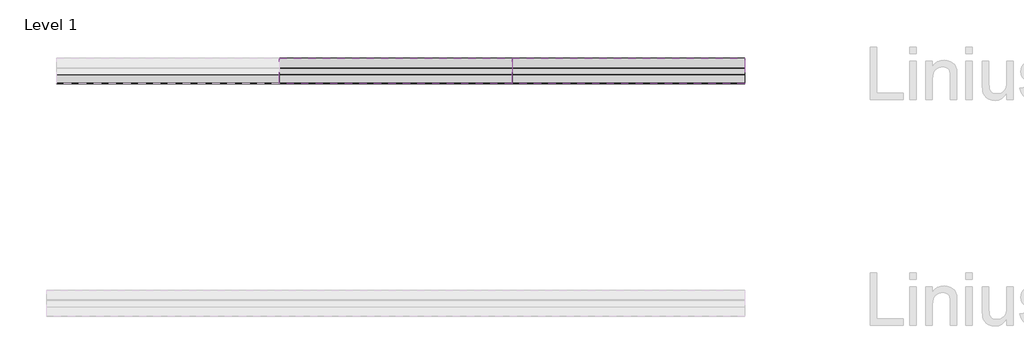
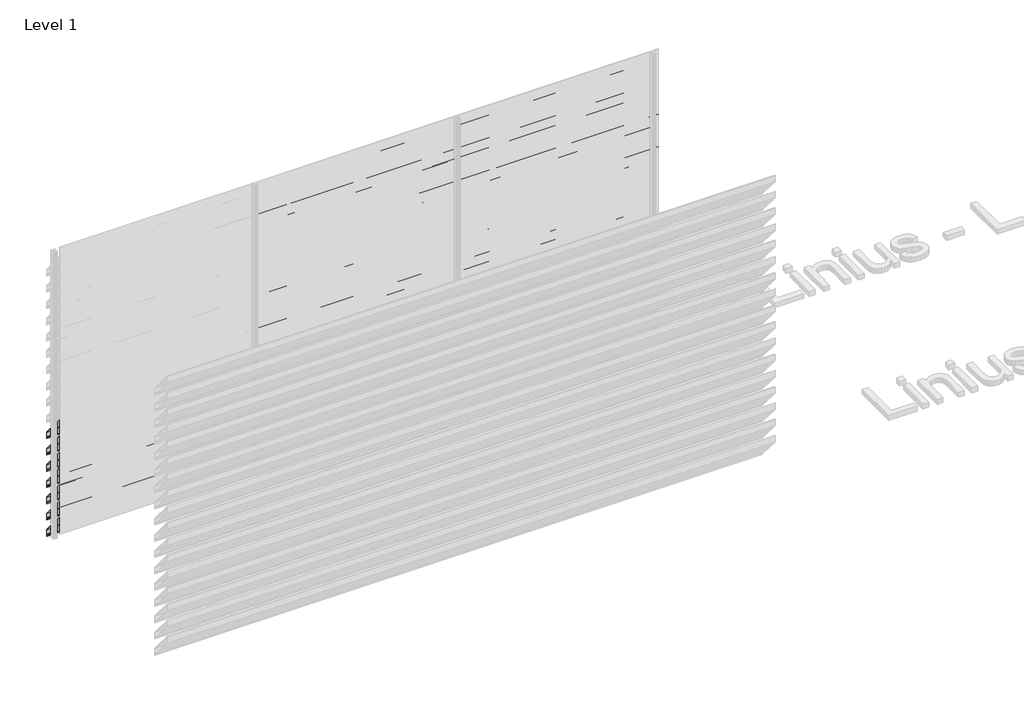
# One storey, part 47 of 121: 41 proxies.
"""IFC4 building model written with IfcOpenShell, lengths in millimetres."""

from ifc_helpers import new_model, si_unit, frame, origin, place, context, project, spatial, polyline, outline, extrude, element, save

model = new_model("IFC4")

# Units and contexts
model_context = context("Model", 3, world=origin())
ifc_project = project(units=[si_unit("LENGTHUNIT", "METRE", prefix="MILLI")], contexts=[model_context])

# Site, building, storey
site = spatial("IfcSite", under=ifc_project)
building = spatial("IfcBuilding", under=site)
storey = spatial("IfcBuildingStorey", under=building, Name="Level 1", Elevation=0.0)

# Proxies
placement = place(None, origin())
element("IfcBuildingElementProxy", 1, Name="Wall Sweeps", at=placement, inside=storey, context=model_context, shape_type="SweptSolid", body=[
    extrude(outline(polyline([(59205.0540136, 931.0), (59205.0540136, 862.0), (59202.5540136, 863.1657691), (59202.5540136, 876.7059843), (59185.8041465, 896.6676986), (59175.1189071, 896.6676986), (58983.0540136, 1125.5617253), (58983.0540136, 1190.0), (58987.7272091, 1190.0), (59205.0540136, 931.0)]), holes=[polyline([(58986.8412246, 1188.1), (58984.9540136, 1188.1), (58984.9540136, 1126.2532688), (59176.0048916, 898.5676986), (59186.6901311, 898.5676986), (59203.1540136, 878.9468074), (59203.1540136, 930.3084566), (58986.8412246, 1188.1)])]), frame((552.6208097, 0.0, 0.0), z_axis=(1.0, 0.0, 0.0), x_axis=(0.0, 1.0, 0.0)), (0.0, 0.0, 1.0), 1914.0),
])
element("IfcBuildingElementProxy", 2, Name="Wall Sweeps", at=placement, inside=storey, context=model_context, shape_type="SweptSolid", body=[
    extrude(outline(polyline([(59205.0540136, 761.0), (59205.0540136, 692.0), (59202.5540136, 693.1657691), (59202.5540136, 706.7059843), (59185.8041465, 726.6676986), (59175.1189071, 726.6676986), (58983.0540136, 955.5617253), (58983.0540136, 1020.0), (58987.7272091, 1020.0), (59205.0540136, 761.0)]), holes=[polyline([(58986.8412246, 1018.1), (58984.9540136, 1018.1), (58984.9540136, 956.2532688), (59176.0048916, 728.5676986), (59186.6901311, 728.5676986), (59203.1540136, 708.9468074), (59203.1540136, 760.3084566), (58986.8412246, 1018.1)])]), frame((552.6208097, 0.0, 0.0), z_axis=(1.0, 0.0, 0.0), x_axis=(0.0, 1.0, 0.0)), (0.0, 0.0, 1.0), 1914.0),
])
element("IfcBuildingElementProxy", 3, Name="Wall Sweeps", at=placement, inside=storey, context=model_context, shape_type="SweptSolid", body=[
    extrude(outline(polyline([(59205.0540136, 591.0), (59205.0540136, 522.0), (59202.5540136, 523.1657691), (59202.5540136, 536.7059843), (59185.8041465, 556.6676986), (59175.1189071, 556.6676986), (58983.0540136, 785.5617253), (58983.0540136, 850.0), (58987.7272091, 850.0), (59205.0540136, 591.0)]), holes=[polyline([(58986.8412246, 848.1), (58984.9540136, 848.1), (58984.9540136, 786.2532688), (59176.0048916, 558.5676986), (59186.6901311, 558.5676986), (59203.1540136, 538.9468074), (59203.1540136, 590.3084566), (58986.8412246, 848.1)])]), frame((552.6208097, 0.0, 0.0), z_axis=(1.0, 0.0, 0.0), x_axis=(0.0, 1.0, 0.0)), (0.0, 0.0, 1.0), 1914.0),
])
element("IfcBuildingElementProxy", 4, Name="Wall Sweeps", at=placement, inside=storey, context=model_context, shape_type="SweptSolid", body=[
    extrude(outline(polyline([(59205.0540136, 421.0), (59205.0540136, 352.0), (59202.5540136, 353.1657691), (59202.5540136, 366.7059843), (59185.8041465, 386.6676986), (59175.1189071, 386.6676986), (58983.0540136, 615.5617253), (58983.0540136, 680.0), (58987.7272091, 680.0), (59205.0540136, 421.0)]), holes=[polyline([(58986.8412246, 678.1), (58984.9540136, 678.1), (58984.9540136, 616.2532688), (59176.0048916, 388.5676986), (59186.6901311, 388.5676986), (59203.1540136, 368.9468074), (59203.1540136, 420.3084566), (58986.8412246, 678.1)])]), frame((552.6208097, 0.0, 0.0), z_axis=(1.0, 0.0, 0.0), x_axis=(0.0, 1.0, 0.0)), (0.0, 0.0, 1.0), 1914.0),
])
element("IfcBuildingElementProxy", 5, Name="Wall Sweeps", at=placement, inside=storey, context=model_context, shape_type="SweptSolid", body=[
    extrude(outline(polyline([(59205.0540136, 251.0), (59205.0540136, 182.0), (59202.5540136, 183.1657691), (59202.5540136, 196.7059843), (59185.8041465, 216.6676986), (59175.1189071, 216.6676986), (58983.0540136, 445.5617253), (58983.0540136, 510.0), (58987.7272091, 510.0), (59205.0540136, 251.0)]), holes=[polyline([(58986.8412246, 508.1), (58984.9540136, 508.1), (58984.9540136, 446.2532688), (59176.0048916, 218.5676986), (59186.6901311, 218.5676986), (59203.1540136, 198.9468074), (59203.1540136, 250.3084566), (58986.8412246, 508.1)])]), frame((552.6208097, 0.0, 0.0), z_axis=(1.0, 0.0, 0.0), x_axis=(0.0, 1.0, 0.0)), (0.0, 0.0, 1.0), 1914.0),
])
element("IfcBuildingElementProxy", 6, Name="Wall Sweeps", at=placement, inside=storey, context=model_context, shape_type="SweptSolid", body=[
    extrude(outline(polyline([(59205.0540136, 81.0), (59205.0540136, 12.0), (59202.5540136, 13.1657691), (59202.5540136, 26.7059843), (59185.8041465, 46.6676986), (59175.1189071, 46.6676986), (58983.0540136, 275.5617253), (58983.0540136, 340.0), (58987.7272091, 340.0), (59205.0540136, 81.0)]), holes=[polyline([(58986.8412246, 338.1), (58984.9540136, 338.1), (58984.9540136, 276.2532688), (59176.0048916, 48.5676986), (59186.6901311, 48.5676986), (59203.1540136, 28.9468074), (59203.1540136, 80.3084566), (58986.8412246, 338.1)])]), frame((552.6208097, 0.0, 0.0), z_axis=(1.0, 0.0, 0.0), x_axis=(0.0, 1.0, 0.0)), (0.0, 0.0, 1.0), 1914.0),
])
element("IfcBuildingElementProxy", 7, Name="Wall Sweeps", at=placement, inside=storey, context=model_context, shape_type="SweptSolid", body=[
    extrude(outline(polyline([(59205.0540136, -89.0), (59205.0540136, -158.0), (59202.5540136, -156.8342309), (59202.5540136, -143.2940157), (59185.8041465, -123.3323014), (59175.1189071, -123.3323014), (58983.0540136, 105.5617253), (58983.0540136, 170.0), (58987.7272091, 170.0), (59205.0540136, -89.0)]), holes=[polyline([(58986.8412246, 168.1), (58984.9540136, 168.1), (58984.9540136, 106.2532688), (59176.0048916, -121.4323014), (59186.6901311, -121.4323014), (59203.1540136, -141.0531926), (59203.1540136, -89.6915434), (58986.8412246, 168.1)])]), frame((552.6208097, 0.0, 0.0), z_axis=(1.0, 0.0, 0.0), x_axis=(0.0, 1.0, 0.0)), (0.0, 0.0, 1.0), 1914.0),
])
element("IfcBuildingElementProxy", 8, Name="Wall Sweeps", at=placement, inside=storey, context=model_context, shape_type="SweptSolid", body=[
    extrude(outline(polyline([(59205.0540136, 2631.0), (59205.0540136, 2562.0), (59202.5540136, 2563.1657691), (59202.5540136, 2576.7059843), (59185.8041465, 2596.6676986), (59175.1189071, 2596.6676986), (58983.0540136, 2825.5617253), (58983.0540136, 2890.0), (58987.7272091, 2890.0), (59205.0540136, 2631.0)]), holes=[polyline([(58986.8412246, 2888.1), (58984.9540136, 2888.1), (58984.9540136, 2826.2532688), (59176.0048916, 2598.5676986), (59186.6901311, 2598.5676986), (59203.1540136, 2578.9468074), (59203.1540136, 2630.3084566), (58986.8412246, 2888.1)])]), frame((2466.6208097, 0.0, 0.0), z_axis=(1.0, 0.0, 0.0), x_axis=(0.0, 1.0, 0.0)), (0.0, 0.0, 1.0), 2000.0),
])
element("IfcBuildingElementProxy", 9, Name="Wall Sweeps", at=placement, inside=storey, context=model_context, shape_type="SweptSolid", body=[
    extrude(outline(polyline([(59205.0540136, 2461.0), (59205.0540136, 2392.0), (59202.5540136, 2393.1657691), (59202.5540136, 2406.7059843), (59185.8041465, 2426.6676986), (59175.1189071, 2426.6676986), (58983.0540136, 2655.5617253), (58983.0540136, 2720.0), (58987.7272091, 2720.0), (59205.0540136, 2461.0)]), holes=[polyline([(58986.8412246, 2718.1), (58984.9540136, 2718.1), (58984.9540136, 2656.2532688), (59176.0048916, 2428.5676986), (59186.6901311, 2428.5676986), (59203.1540136, 2408.9468074), (59203.1540136, 2460.3084566), (58986.8412246, 2718.1)])]), frame((2466.6208097, 0.0, 0.0), z_axis=(1.0, 0.0, 0.0), x_axis=(0.0, 1.0, 0.0)), (0.0, 0.0, 1.0), 2000.0),
])
element("IfcBuildingElementProxy", 10, Name="Wall Sweeps", at=placement, inside=storey, context=model_context, shape_type="SweptSolid", body=[
    extrude(outline(polyline([(59205.0540136, 2291.0), (59205.0540136, 2222.0), (59202.5540136, 2223.1657691), (59202.5540136, 2236.7059843), (59185.8041465, 2256.6676986), (59175.1189071, 2256.6676986), (58983.0540136, 2485.5617253), (58983.0540136, 2550.0), (58987.7272091, 2550.0), (59205.0540136, 2291.0)]), holes=[polyline([(58986.8412246, 2548.1), (58984.9540136, 2548.1), (58984.9540136, 2486.2532688), (59176.0048916, 2258.5676986), (59186.6901311, 2258.5676986), (59203.1540136, 2238.9468074), (59203.1540136, 2290.3084566), (58986.8412246, 2548.1)])]), frame((2466.6208097, 0.0, 0.0), z_axis=(1.0, 0.0, 0.0), x_axis=(0.0, 1.0, 0.0)), (0.0, 0.0, 1.0), 2000.0),
])
element("IfcBuildingElementProxy", 11, Name="Wall Sweeps", at=placement, inside=storey, context=model_context, shape_type="SweptSolid", body=[
    extrude(outline(polyline([(59205.0540136, 2121.0), (59205.0540136, 2052.0), (59202.5540136, 2053.1657691), (59202.5540136, 2066.7059843), (59185.8041465, 2086.6676986), (59175.1189071, 2086.6676986), (58983.0540136, 2315.5617253), (58983.0540136, 2380.0), (58987.7272091, 2380.0), (59205.0540136, 2121.0)]), holes=[polyline([(58986.8412246, 2378.1), (58984.9540136, 2378.1), (58984.9540136, 2316.2532688), (59176.0048916, 2088.5676986), (59186.6901311, 2088.5676986), (59203.1540136, 2068.9468074), (59203.1540136, 2120.3084566), (58986.8412246, 2378.1)])]), frame((2466.6208097, 0.0, 0.0), z_axis=(1.0, 0.0, 0.0), x_axis=(0.0, 1.0, 0.0)), (0.0, 0.0, 1.0), 2000.0),
])
element("IfcBuildingElementProxy", 12, Name="Wall Sweeps", at=placement, inside=storey, context=model_context, shape_type="SweptSolid", body=[
    extrude(outline(polyline([(59205.0540136, 1951.0), (59205.0540136, 1882.0), (59202.5540136, 1883.1657691), (59202.5540136, 1896.7059843), (59185.8041465, 1916.6676986), (59175.1189071, 1916.6676986), (58983.0540136, 2145.5617253), (58983.0540136, 2210.0), (58987.7272091, 2210.0), (59205.0540136, 1951.0)]), holes=[polyline([(58986.8412246, 2208.1), (58984.9540136, 2208.1), (58984.9540136, 2146.2532688), (59176.0048916, 1918.5676986), (59186.6901311, 1918.5676986), (59203.1540136, 1898.9468074), (59203.1540136, 1950.3084566), (58986.8412246, 2208.1)])]), frame((2466.6208097, 0.0, 0.0), z_axis=(1.0, 0.0, 0.0), x_axis=(0.0, 1.0, 0.0)), (0.0, 0.0, 1.0), 2000.0),
])
element("IfcBuildingElementProxy", 13, Name="Wall Sweeps", at=placement, inside=storey, context=model_context, shape_type="SweptSolid", body=[
    extrude(outline(polyline([(59205.0540136, 1781.0), (59205.0540136, 1712.0), (59202.5540136, 1713.1657691), (59202.5540136, 1726.7059843), (59185.8041465, 1746.6676986), (59175.1189071, 1746.6676986), (58983.0540136, 1975.5617253), (58983.0540136, 2040.0), (58987.7272091, 2040.0), (59205.0540136, 1781.0)]), holes=[polyline([(58986.8412246, 2038.1), (58984.9540136, 2038.1), (58984.9540136, 1976.2532688), (59176.0048916, 1748.5676986), (59186.6901311, 1748.5676986), (59203.1540136, 1728.9468074), (59203.1540136, 1780.3084566), (58986.8412246, 2038.1)])]), frame((2466.6208097, 0.0, 0.0), z_axis=(1.0, 0.0, 0.0), x_axis=(0.0, 1.0, 0.0)), (0.0, 0.0, 1.0), 2000.0),
])
element("IfcBuildingElementProxy", 14, Name="Wall Sweeps", at=placement, inside=storey, context=model_context, shape_type="SweptSolid", body=[
    extrude(outline(polyline([(59205.0540136, 1611.0), (59205.0540136, 1542.0), (59202.5540136, 1543.1657691), (59202.5540136, 1556.7059843), (59185.8041465, 1576.6676986), (59175.1189071, 1576.6676986), (58983.0540136, 1805.5617253), (58983.0540136, 1870.0), (58987.7272091, 1870.0), (59205.0540136, 1611.0)]), holes=[polyline([(58986.8412246, 1868.1), (58984.9540136, 1868.1), (58984.9540136, 1806.2532688), (59176.0048916, 1578.5676986), (59186.6901311, 1578.5676986), (59203.1540136, 1558.9468074), (59203.1540136, 1610.3084566), (58986.8412246, 1868.1)])]), frame((2466.6208097, 0.0, 0.0), z_axis=(1.0, 0.0, 0.0), x_axis=(0.0, 1.0, 0.0)), (0.0, 0.0, 1.0), 2000.0),
])
element("IfcBuildingElementProxy", 15, Name="Wall Sweeps", at=placement, inside=storey, context=model_context, shape_type="SweptSolid", body=[
    extrude(outline(polyline([(59205.0540136, 1441.0), (59205.0540136, 1372.0), (59202.5540136, 1373.1657691), (59202.5540136, 1386.7059843), (59185.8041465, 1406.6676986), (59175.1189071, 1406.6676986), (58983.0540136, 1635.5617253), (58983.0540136, 1700.0), (58987.7272091, 1700.0), (59205.0540136, 1441.0)]), holes=[polyline([(58986.8412246, 1698.1), (58984.9540136, 1698.1), (58984.9540136, 1636.2532688), (59176.0048916, 1408.5676986), (59186.6901311, 1408.5676986), (59203.1540136, 1388.9468074), (59203.1540136, 1440.3084566), (58986.8412246, 1698.1)])]), frame((2466.6208097, 0.0, 0.0), z_axis=(1.0, 0.0, 0.0), x_axis=(0.0, 1.0, 0.0)), (0.0, 0.0, 1.0), 2000.0),
])
element("IfcBuildingElementProxy", 16, Name="Wall Sweeps", at=placement, inside=storey, context=model_context, shape_type="SweptSolid", body=[
    extrude(outline(polyline([(59205.0540136, 1271.0), (59205.0540136, 1202.0), (59202.5540136, 1203.1657691), (59202.5540136, 1216.7059843), (59185.8041465, 1236.6676986), (59175.1189071, 1236.6676986), (58983.0540136, 1465.5617253), (58983.0540136, 1530.0), (58987.7272091, 1530.0), (59205.0540136, 1271.0)]), holes=[polyline([(58986.8412246, 1528.1), (58984.9540136, 1528.1), (58984.9540136, 1466.2532688), (59176.0048916, 1238.5676986), (59186.6901311, 1238.5676986), (59203.1540136, 1218.9468074), (59203.1540136, 1270.3084566), (58986.8412246, 1528.1)])]), frame((2466.6208097, 0.0, 0.0), z_axis=(1.0, 0.0, 0.0), x_axis=(0.0, 1.0, 0.0)), (0.0, 0.0, 1.0), 2000.0),
])
element("IfcBuildingElementProxy", 17, Name="Wall Sweeps", at=placement, inside=storey, context=model_context, shape_type="SweptSolid", body=[
    extrude(outline(polyline([(59205.0540136, 1101.0), (59205.0540136, 1032.0), (59202.5540136, 1033.1657691), (59202.5540136, 1046.7059843), (59185.8041465, 1066.6676986), (59175.1189071, 1066.6676986), (58983.0540136, 1295.5617253), (58983.0540136, 1360.0), (58987.7272091, 1360.0), (59205.0540136, 1101.0)]), holes=[polyline([(58986.8412246, 1358.1), (58984.9540136, 1358.1), (58984.9540136, 1296.2532688), (59176.0048916, 1068.5676986), (59186.6901311, 1068.5676986), (59203.1540136, 1048.9468074), (59203.1540136, 1100.3084566), (58986.8412246, 1358.1)])]), frame((2466.6208097, 0.0, 0.0), z_axis=(1.0, 0.0, 0.0), x_axis=(0.0, 1.0, 0.0)), (0.0, 0.0, 1.0), 2000.0),
])
element("IfcBuildingElementProxy", 18, Name="Wall Sweeps", at=placement, inside=storey, context=model_context, shape_type="SweptSolid", body=[
    extrude(outline(polyline([(59205.0540136, 931.0), (59205.0540136, 862.0), (59202.5540136, 863.1657691), (59202.5540136, 876.7059843), (59185.8041465, 896.6676986), (59175.1189071, 896.6676986), (58983.0540136, 1125.5617253), (58983.0540136, 1190.0), (58987.7272091, 1190.0), (59205.0540136, 931.0)]), holes=[polyline([(58986.8412246, 1188.1), (58984.9540136, 1188.1), (58984.9540136, 1126.2532688), (59176.0048916, 898.5676986), (59186.6901311, 898.5676986), (59203.1540136, 878.9468074), (59203.1540136, 930.3084566), (58986.8412246, 1188.1)])]), frame((2466.6208097, 0.0, 0.0), z_axis=(1.0, 0.0, 0.0), x_axis=(0.0, 1.0, 0.0)), (0.0, 0.0, 1.0), 2000.0),
])
element("IfcBuildingElementProxy", 19, Name="Wall Sweeps", at=placement, inside=storey, context=model_context, shape_type="SweptSolid", body=[
    extrude(outline(polyline([(59205.0540136, 761.0), (59205.0540136, 692.0), (59202.5540136, 693.1657691), (59202.5540136, 706.7059843), (59185.8041465, 726.6676986), (59175.1189071, 726.6676986), (58983.0540136, 955.5617253), (58983.0540136, 1020.0), (58987.7272091, 1020.0), (59205.0540136, 761.0)]), holes=[polyline([(58986.8412246, 1018.1), (58984.9540136, 1018.1), (58984.9540136, 956.2532688), (59176.0048916, 728.5676986), (59186.6901311, 728.5676986), (59203.1540136, 708.9468074), (59203.1540136, 760.3084566), (58986.8412246, 1018.1)])]), frame((2466.6208097, 0.0, 0.0), z_axis=(1.0, 0.0, 0.0), x_axis=(0.0, 1.0, 0.0)), (0.0, 0.0, 1.0), 2000.0),
])
element("IfcBuildingElementProxy", 20, Name="Wall Sweeps", at=placement, inside=storey, context=model_context, shape_type="SweptSolid", body=[
    extrude(outline(polyline([(59205.0540136, 591.0), (59205.0540136, 522.0), (59202.5540136, 523.1657691), (59202.5540136, 536.7059843), (59185.8041465, 556.6676986), (59175.1189071, 556.6676986), (58983.0540136, 785.5617253), (58983.0540136, 850.0), (58987.7272091, 850.0), (59205.0540136, 591.0)]), holes=[polyline([(58986.8412246, 848.1), (58984.9540136, 848.1), (58984.9540136, 786.2532688), (59176.0048916, 558.5676986), (59186.6901311, 558.5676986), (59203.1540136, 538.9468074), (59203.1540136, 590.3084566), (58986.8412246, 848.1)])]), frame((2466.6208097, 0.0, 0.0), z_axis=(1.0, 0.0, 0.0), x_axis=(0.0, 1.0, 0.0)), (0.0, 0.0, 1.0), 2000.0),
])
element("IfcBuildingElementProxy", 21, Name="Wall Sweeps", at=placement, inside=storey, context=model_context, shape_type="SweptSolid", body=[
    extrude(outline(polyline([(59205.0540136, 421.0), (59205.0540136, 352.0), (59202.5540136, 353.1657691), (59202.5540136, 366.7059843), (59185.8041465, 386.6676986), (59175.1189071, 386.6676986), (58983.0540136, 615.5617253), (58983.0540136, 680.0), (58987.7272091, 680.0), (59205.0540136, 421.0)]), holes=[polyline([(58986.8412246, 678.1), (58984.9540136, 678.1), (58984.9540136, 616.2532688), (59176.0048916, 388.5676986), (59186.6901311, 388.5676986), (59203.1540136, 368.9468074), (59203.1540136, 420.3084566), (58986.8412246, 678.1)])]), frame((2466.6208097, 0.0, 0.0), z_axis=(1.0, 0.0, 0.0), x_axis=(0.0, 1.0, 0.0)), (0.0, 0.0, 1.0), 2000.0),
])
element("IfcBuildingElementProxy", 22, Name="Wall Sweeps", at=placement, inside=storey, context=model_context, shape_type="SweptSolid", body=[
    extrude(outline(polyline([(59205.0540136, 251.0), (59205.0540136, 182.0), (59202.5540136, 183.1657691), (59202.5540136, 196.7059843), (59185.8041465, 216.6676986), (59175.1189071, 216.6676986), (58983.0540136, 445.5617253), (58983.0540136, 510.0), (58987.7272091, 510.0), (59205.0540136, 251.0)]), holes=[polyline([(58986.8412246, 508.1), (58984.9540136, 508.1), (58984.9540136, 446.2532688), (59176.0048916, 218.5676986), (59186.6901311, 218.5676986), (59203.1540136, 198.9468074), (59203.1540136, 250.3084566), (58986.8412246, 508.1)])]), frame((2466.6208097, 0.0, 0.0), z_axis=(1.0, 0.0, 0.0), x_axis=(0.0, 1.0, 0.0)), (0.0, 0.0, 1.0), 2000.0),
])
element("IfcBuildingElementProxy", 23, Name="Wall Sweeps", at=placement, inside=storey, context=model_context, shape_type="SweptSolid", body=[
    extrude(outline(polyline([(59205.0540136, 81.0), (59205.0540136, 12.0), (59202.5540136, 13.1657691), (59202.5540136, 26.7059843), (59185.8041465, 46.6676986), (59175.1189071, 46.6676986), (58983.0540136, 275.5617253), (58983.0540136, 340.0), (58987.7272091, 340.0), (59205.0540136, 81.0)]), holes=[polyline([(58986.8412246, 338.1), (58984.9540136, 338.1), (58984.9540136, 276.2532688), (59176.0048916, 48.5676986), (59186.6901311, 48.5676986), (59203.1540136, 28.9468074), (59203.1540136, 80.3084566), (58986.8412246, 338.1)])]), frame((2466.6208097, 0.0, 0.0), z_axis=(1.0, 0.0, 0.0), x_axis=(0.0, 1.0, 0.0)), (0.0, 0.0, 1.0), 2000.0),
])
element("IfcBuildingElementProxy", 24, Name="Wall Sweeps", at=placement, inside=storey, context=model_context, shape_type="SweptSolid", body=[
    extrude(outline(polyline([(59205.0540136, -89.0), (59205.0540136, -158.0), (59202.5540136, -156.8342309), (59202.5540136, -143.2940157), (59185.8041465, -123.3323014), (59175.1189071, -123.3323014), (58983.0540136, 105.5617253), (58983.0540136, 170.0), (58987.7272091, 170.0), (59205.0540136, -89.0)]), holes=[polyline([(58986.8412246, 168.1), (58984.9540136, 168.1), (58984.9540136, 106.2532688), (59176.0048916, -121.4323014), (59186.6901311, -121.4323014), (59203.1540136, -141.0531926), (59203.1540136, -89.6915434), (58986.8412246, 168.1)])]), frame((2466.6208097, 0.0, 0.0), z_axis=(1.0, 0.0, 0.0), x_axis=(0.0, 1.0, 0.0)), (0.0, 0.0, 1.0), 2000.0),
])
element("IfcBuildingElementProxy", 25, Name="Wall Sweeps", at=placement, inside=storey, context=model_context, shape_type="SweptSolid", body=[
    extrude(outline(polyline([(59205.0540136, 2631.0), (59205.0540136, 2562.0), (59202.5540136, 2563.1657691), (59202.5540136, 2576.7059843), (59185.8041465, 2596.6676986), (59175.1189071, 2596.6676986), (58983.0540136, 2825.5617253), (58983.0540136, 2890.0), (58987.7272091, 2890.0), (59205.0540136, 2631.0)]), holes=[polyline([(58986.8412246, 2888.1), (58984.9540136, 2888.1), (58984.9540136, 2826.2532688), (59176.0048916, 2598.5676986), (59186.6901311, 2598.5676986), (59203.1540136, 2578.9468074), (59203.1540136, 2630.3084566), (58986.8412246, 2888.1)])]), frame((4466.6208097, 0.0, 0.0), z_axis=(1.0, 0.0, 0.0), x_axis=(0.0, 1.0, 0.0)), (0.0, 0.0, 1.0), 2000.0),
])
element("IfcBuildingElementProxy", 26, Name="Wall Sweeps", at=placement, inside=storey, context=model_context, shape_type="SweptSolid", body=[
    extrude(outline(polyline([(59205.0540136, 2461.0), (59205.0540136, 2392.0), (59202.5540136, 2393.1657691), (59202.5540136, 2406.7059843), (59185.8041465, 2426.6676986), (59175.1189071, 2426.6676986), (58983.0540136, 2655.5617253), (58983.0540136, 2720.0), (58987.7272091, 2720.0), (59205.0540136, 2461.0)]), holes=[polyline([(58986.8412246, 2718.1), (58984.9540136, 2718.1), (58984.9540136, 2656.2532688), (59176.0048916, 2428.5676986), (59186.6901311, 2428.5676986), (59203.1540136, 2408.9468074), (59203.1540136, 2460.3084566), (58986.8412246, 2718.1)])]), frame((4466.6208097, 0.0, 0.0), z_axis=(1.0, 0.0, 0.0), x_axis=(0.0, 1.0, 0.0)), (0.0, 0.0, 1.0), 2000.0),
])
element("IfcBuildingElementProxy", 27, Name="Wall Sweeps", at=placement, inside=storey, context=model_context, shape_type="SweptSolid", body=[
    extrude(outline(polyline([(59205.0540136, 2291.0), (59205.0540136, 2222.0), (59202.5540136, 2223.1657691), (59202.5540136, 2236.7059843), (59185.8041465, 2256.6676986), (59175.1189071, 2256.6676986), (58983.0540136, 2485.5617253), (58983.0540136, 2550.0), (58987.7272091, 2550.0), (59205.0540136, 2291.0)]), holes=[polyline([(58986.8412246, 2548.1), (58984.9540136, 2548.1), (58984.9540136, 2486.2532688), (59176.0048916, 2258.5676986), (59186.6901311, 2258.5676986), (59203.1540136, 2238.9468074), (59203.1540136, 2290.3084566), (58986.8412246, 2548.1)])]), frame((4466.6208097, 0.0, 0.0), z_axis=(1.0, 0.0, 0.0), x_axis=(0.0, 1.0, 0.0)), (0.0, 0.0, 1.0), 2000.0),
])
element("IfcBuildingElementProxy", 28, Name="Wall Sweeps", at=placement, inside=storey, context=model_context, shape_type="SweptSolid", body=[
    extrude(outline(polyline([(59205.0540136, 2121.0), (59205.0540136, 2052.0), (59202.5540136, 2053.1657691), (59202.5540136, 2066.7059843), (59185.8041465, 2086.6676986), (59175.1189071, 2086.6676986), (58983.0540136, 2315.5617253), (58983.0540136, 2380.0), (58987.7272091, 2380.0), (59205.0540136, 2121.0)]), holes=[polyline([(58986.8412246, 2378.1), (58984.9540136, 2378.1), (58984.9540136, 2316.2532688), (59176.0048916, 2088.5676986), (59186.6901311, 2088.5676986), (59203.1540136, 2068.9468074), (59203.1540136, 2120.3084566), (58986.8412246, 2378.1)])]), frame((4466.6208097, 0.0, 0.0), z_axis=(1.0, 0.0, 0.0), x_axis=(0.0, 1.0, 0.0)), (0.0, 0.0, 1.0), 2000.0),
])
element("IfcBuildingElementProxy", 29, Name="Wall Sweeps", at=placement, inside=storey, context=model_context, shape_type="SweptSolid", body=[
    extrude(outline(polyline([(59205.0540136, 1951.0), (59205.0540136, 1882.0), (59202.5540136, 1883.1657691), (59202.5540136, 1896.7059843), (59185.8041465, 1916.6676986), (59175.1189071, 1916.6676986), (58983.0540136, 2145.5617253), (58983.0540136, 2210.0), (58987.7272091, 2210.0), (59205.0540136, 1951.0)]), holes=[polyline([(58986.8412246, 2208.1), (58984.9540136, 2208.1), (58984.9540136, 2146.2532688), (59176.0048916, 1918.5676986), (59186.6901311, 1918.5676986), (59203.1540136, 1898.9468074), (59203.1540136, 1950.3084566), (58986.8412246, 2208.1)])]), frame((4466.6208097, 0.0, 0.0), z_axis=(1.0, 0.0, 0.0), x_axis=(0.0, 1.0, 0.0)), (0.0, 0.0, 1.0), 2000.0),
])
element("IfcBuildingElementProxy", 30, Name="Wall Sweeps", at=placement, inside=storey, context=model_context, shape_type="SweptSolid", body=[
    extrude(outline(polyline([(59205.0540136, 1781.0), (59205.0540136, 1712.0), (59202.5540136, 1713.1657691), (59202.5540136, 1726.7059843), (59185.8041465, 1746.6676986), (59175.1189071, 1746.6676986), (58983.0540136, 1975.5617253), (58983.0540136, 2040.0), (58987.7272091, 2040.0), (59205.0540136, 1781.0)]), holes=[polyline([(58986.8412246, 2038.1), (58984.9540136, 2038.1), (58984.9540136, 1976.2532688), (59176.0048916, 1748.5676986), (59186.6901311, 1748.5676986), (59203.1540136, 1728.9468074), (59203.1540136, 1780.3084566), (58986.8412246, 2038.1)])]), frame((4466.6208097, 0.0, 0.0), z_axis=(1.0, 0.0, 0.0), x_axis=(0.0, 1.0, 0.0)), (0.0, 0.0, 1.0), 2000.0),
])
element("IfcBuildingElementProxy", 31, Name="Wall Sweeps", at=placement, inside=storey, context=model_context, shape_type="SweptSolid", body=[
    extrude(outline(polyline([(59205.0540136, 1611.0), (59205.0540136, 1542.0), (59202.5540136, 1543.1657691), (59202.5540136, 1556.7059843), (59185.8041465, 1576.6676986), (59175.1189071, 1576.6676986), (58983.0540136, 1805.5617253), (58983.0540136, 1870.0), (58987.7272091, 1870.0), (59205.0540136, 1611.0)]), holes=[polyline([(58986.8412246, 1868.1), (58984.9540136, 1868.1), (58984.9540136, 1806.2532688), (59176.0048916, 1578.5676986), (59186.6901311, 1578.5676986), (59203.1540136, 1558.9468074), (59203.1540136, 1610.3084566), (58986.8412246, 1868.1)])]), frame((4466.6208097, 0.0, 0.0), z_axis=(1.0, 0.0, 0.0), x_axis=(0.0, 1.0, 0.0)), (0.0, 0.0, 1.0), 2000.0),
])
element("IfcBuildingElementProxy", 32, Name="Wall Sweeps", at=placement, inside=storey, context=model_context, shape_type="SweptSolid", body=[
    extrude(outline(polyline([(59205.0540136, 1441.0), (59205.0540136, 1372.0), (59202.5540136, 1373.1657691), (59202.5540136, 1386.7059843), (59185.8041465, 1406.6676986), (59175.1189071, 1406.6676986), (58983.0540136, 1635.5617253), (58983.0540136, 1700.0), (58987.7272091, 1700.0), (59205.0540136, 1441.0)]), holes=[polyline([(58986.8412246, 1698.1), (58984.9540136, 1698.1), (58984.9540136, 1636.2532688), (59176.0048916, 1408.5676986), (59186.6901311, 1408.5676986), (59203.1540136, 1388.9468074), (59203.1540136, 1440.3084566), (58986.8412246, 1698.1)])]), frame((4466.6208097, 0.0, 0.0), z_axis=(1.0, 0.0, 0.0), x_axis=(0.0, 1.0, 0.0)), (0.0, 0.0, 1.0), 2000.0),
])
element("IfcBuildingElementProxy", 33, Name="Wall Sweeps", at=placement, inside=storey, context=model_context, shape_type="SweptSolid", body=[
    extrude(outline(polyline([(59205.0540136, 1271.0), (59205.0540136, 1202.0), (59202.5540136, 1203.1657691), (59202.5540136, 1216.7059843), (59185.8041465, 1236.6676986), (59175.1189071, 1236.6676986), (58983.0540136, 1465.5617253), (58983.0540136, 1530.0), (58987.7272091, 1530.0), (59205.0540136, 1271.0)]), holes=[polyline([(58986.8412246, 1528.1), (58984.9540136, 1528.1), (58984.9540136, 1466.2532688), (59176.0048916, 1238.5676986), (59186.6901311, 1238.5676986), (59203.1540136, 1218.9468074), (59203.1540136, 1270.3084566), (58986.8412246, 1528.1)])]), frame((4466.6208097, 0.0, 0.0), z_axis=(1.0, 0.0, 0.0), x_axis=(0.0, 1.0, 0.0)), (0.0, 0.0, 1.0), 2000.0),
])
element("IfcBuildingElementProxy", 34, Name="Wall Sweeps", at=placement, inside=storey, context=model_context, shape_type="SweptSolid", body=[
    extrude(outline(polyline([(59205.0540136, 1101.0), (59205.0540136, 1032.0), (59202.5540136, 1033.1657691), (59202.5540136, 1046.7059843), (59185.8041465, 1066.6676986), (59175.1189071, 1066.6676986), (58983.0540136, 1295.5617253), (58983.0540136, 1360.0), (58987.7272091, 1360.0), (59205.0540136, 1101.0)]), holes=[polyline([(58986.8412246, 1358.1), (58984.9540136, 1358.1), (58984.9540136, 1296.2532688), (59176.0048916, 1068.5676986), (59186.6901311, 1068.5676986), (59203.1540136, 1048.9468074), (59203.1540136, 1100.3084566), (58986.8412246, 1358.1)])]), frame((4466.6208097, 0.0, 0.0), z_axis=(1.0, 0.0, 0.0), x_axis=(0.0, 1.0, 0.0)), (0.0, 0.0, 1.0), 2000.0),
])
element("IfcBuildingElementProxy", 35, Name="Wall Sweeps", at=placement, inside=storey, context=model_context, shape_type="SweptSolid", body=[
    extrude(outline(polyline([(59205.0540136, 931.0), (59205.0540136, 862.0), (59202.5540136, 863.1657691), (59202.5540136, 876.7059843), (59185.8041465, 896.6676986), (59175.1189071, 896.6676986), (58983.0540136, 1125.5617253), (58983.0540136, 1190.0), (58987.7272091, 1190.0), (59205.0540136, 931.0)]), holes=[polyline([(58986.8412246, 1188.1), (58984.9540136, 1188.1), (58984.9540136, 1126.2532688), (59176.0048916, 898.5676986), (59186.6901311, 898.5676986), (59203.1540136, 878.9468074), (59203.1540136, 930.3084566), (58986.8412246, 1188.1)])]), frame((4466.6208097, 0.0, 0.0), z_axis=(1.0, 0.0, 0.0), x_axis=(0.0, 1.0, 0.0)), (0.0, 0.0, 1.0), 2000.0),
])
element("IfcBuildingElementProxy", 36, Name="Wall Sweeps", at=placement, inside=storey, context=model_context, shape_type="SweptSolid", body=[
    extrude(outline(polyline([(59205.0540136, 761.0), (59205.0540136, 692.0), (59202.5540136, 693.1657691), (59202.5540136, 706.7059843), (59185.8041465, 726.6676986), (59175.1189071, 726.6676986), (58983.0540136, 955.5617253), (58983.0540136, 1020.0), (58987.7272091, 1020.0), (59205.0540136, 761.0)]), holes=[polyline([(58986.8412246, 1018.1), (58984.9540136, 1018.1), (58984.9540136, 956.2532688), (59176.0048916, 728.5676986), (59186.6901311, 728.5676986), (59203.1540136, 708.9468074), (59203.1540136, 760.3084566), (58986.8412246, 1018.1)])]), frame((4466.6208097, 0.0, 0.0), z_axis=(1.0, 0.0, 0.0), x_axis=(0.0, 1.0, 0.0)), (0.0, 0.0, 1.0), 2000.0),
])
element("IfcBuildingElementProxy", 37, Name="Wall Sweeps", at=placement, inside=storey, context=model_context, shape_type="SweptSolid", body=[
    extrude(outline(polyline([(59205.0540136, 591.0), (59205.0540136, 522.0), (59202.5540136, 523.1657691), (59202.5540136, 536.7059843), (59185.8041465, 556.6676986), (59175.1189071, 556.6676986), (58983.0540136, 785.5617253), (58983.0540136, 850.0), (58987.7272091, 850.0), (59205.0540136, 591.0)]), holes=[polyline([(58986.8412246, 848.1), (58984.9540136, 848.1), (58984.9540136, 786.2532688), (59176.0048916, 558.5676986), (59186.6901311, 558.5676986), (59203.1540136, 538.9468074), (59203.1540136, 590.3084566), (58986.8412246, 848.1)])]), frame((4466.6208097, 0.0, 0.0), z_axis=(1.0, 0.0, 0.0), x_axis=(0.0, 1.0, 0.0)), (0.0, 0.0, 1.0), 2000.0),
])
element("IfcBuildingElementProxy", 38, Name="Wall Sweeps", at=placement, inside=storey, context=model_context, shape_type="SweptSolid", body=[
    extrude(outline(polyline([(59205.0540136, 421.0), (59205.0540136, 352.0), (59202.5540136, 353.1657691), (59202.5540136, 366.7059843), (59185.8041465, 386.6676986), (59175.1189071, 386.6676986), (58983.0540136, 615.5617253), (58983.0540136, 680.0), (58987.7272091, 680.0), (59205.0540136, 421.0)]), holes=[polyline([(58986.8412246, 678.1), (58984.9540136, 678.1), (58984.9540136, 616.2532688), (59176.0048916, 388.5676986), (59186.6901311, 388.5676986), (59203.1540136, 368.9468074), (59203.1540136, 420.3084566), (58986.8412246, 678.1)])]), frame((4466.6208097, 0.0, 0.0), z_axis=(1.0, 0.0, 0.0), x_axis=(0.0, 1.0, 0.0)), (0.0, 0.0, 1.0), 2000.0),
])
element("IfcBuildingElementProxy", 39, Name="Wall Sweeps", at=placement, inside=storey, context=model_context, shape_type="SweptSolid", body=[
    extrude(outline(polyline([(59205.0540136, 251.0), (59205.0540136, 182.0), (59202.5540136, 183.1657691), (59202.5540136, 196.7059843), (59185.8041465, 216.6676986), (59175.1189071, 216.6676986), (58983.0540136, 445.5617253), (58983.0540136, 510.0), (58987.7272091, 510.0), (59205.0540136, 251.0)]), holes=[polyline([(58986.8412246, 508.1), (58984.9540136, 508.1), (58984.9540136, 446.2532688), (59176.0048916, 218.5676986), (59186.6901311, 218.5676986), (59203.1540136, 198.9468074), (59203.1540136, 250.3084566), (58986.8412246, 508.1)])]), frame((4466.6208097, 0.0, 0.0), z_axis=(1.0, 0.0, 0.0), x_axis=(0.0, 1.0, 0.0)), (0.0, 0.0, 1.0), 2000.0),
])
element("IfcBuildingElementProxy", 40, Name="Wall Sweeps", at=placement, inside=storey, context=model_context, shape_type="SweptSolid", body=[
    extrude(outline(polyline([(59205.0540136, 81.0), (59205.0540136, 12.0), (59202.5540136, 13.1657691), (59202.5540136, 26.7059843), (59185.8041465, 46.6676986), (59175.1189071, 46.6676986), (58983.0540136, 275.5617253), (58983.0540136, 340.0), (58987.7272091, 340.0), (59205.0540136, 81.0)]), holes=[polyline([(58986.8412246, 338.1), (58984.9540136, 338.1), (58984.9540136, 276.2532688), (59176.0048916, 48.5676986), (59186.6901311, 48.5676986), (59203.1540136, 28.9468074), (59203.1540136, 80.3084566), (58986.8412246, 338.1)])]), frame((4466.6208097, 0.0, 0.0), z_axis=(1.0, 0.0, 0.0), x_axis=(0.0, 1.0, 0.0)), (0.0, 0.0, 1.0), 2000.0),
])
element("IfcBuildingElementProxy", 41, Name="Wall Sweeps", at=placement, inside=storey, context=model_context, shape_type="SweptSolid", body=[
    extrude(outline(polyline([(59205.0540136, -89.0), (59205.0540136, -158.0), (59202.5540136, -156.8342309), (59202.5540136, -143.2940157), (59185.8041465, -123.3323014), (59175.1189071, -123.3323014), (58983.0540136, 105.5617253), (58983.0540136, 170.0), (58987.7272091, 170.0), (59205.0540136, -89.0)]), holes=[polyline([(58986.8412246, 168.1), (58984.9540136, 168.1), (58984.9540136, 106.2532688), (59176.0048916, -121.4323014), (59186.6901311, -121.4323014), (59203.1540136, -141.0531926), (59203.1540136, -89.6915434), (58986.8412246, 168.1)])]), frame((4466.6208097, 0.0, 0.0), z_axis=(1.0, 0.0, 0.0), x_axis=(0.0, 1.0, 0.0)), (0.0, 0.0, 1.0), 2000.0),
])

save(model, "model.ifc")
